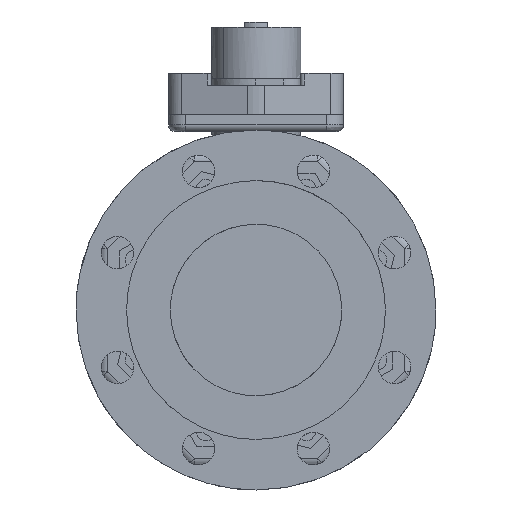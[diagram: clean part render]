
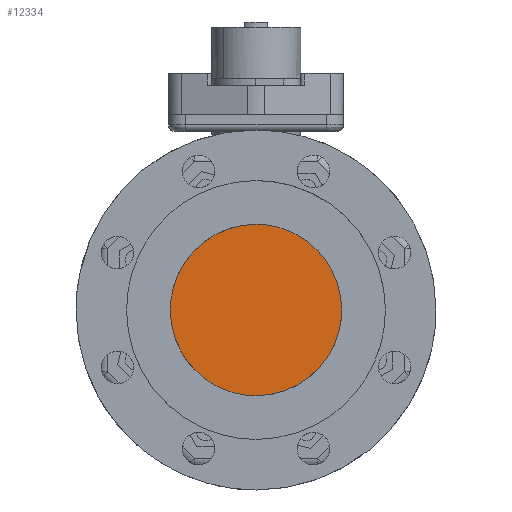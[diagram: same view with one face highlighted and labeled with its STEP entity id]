
A CAD part, left-side view. The second image highlights one B-rep face of the part: STEP entity #12334.
In plain terms, the highlighted free-form (B-spline) face has degree [1, 1] with [2, 2] control points.
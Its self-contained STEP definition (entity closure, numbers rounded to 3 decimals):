
#4020=CARTESIAN_POINT('',(-43.,34.418,36.269));
#4021=VERTEX_POINT('',#4020);
#4027=CARTESIAN_POINT('',(-43.,0.,50.));
#4028=VERTEX_POINT('',#4027);
#4029=CARTESIAN_POINT('',(-43.,0.,50.));
#4030=CARTESIAN_POINT('',(-43.,3.757,50.001));
#4031=CARTESIAN_POINT('',(-43.,9.095,49.396));
#4032=CARTESIAN_POINT('',(-43.,17.291,47.102));
#4033=CARTESIAN_POINT('',(-43.,25.469,43.497));
#4034=CARTESIAN_POINT('',(-43.,31.407,39.128));
#4035=CARTESIAN_POINT('',(-43.,34.418,36.269));
#4036=B_SPLINE_CURVE_WITH_KNOTS('',3,(#4029,#4030,#4031,#4032,#4033,#4034,#4035),.UNSPECIFIED.,.F.,.U.,(4,1,1,1,4),(0.,11.27,16.015,25.505,37.961),.UNSPECIFIED.);
#4037=EDGE_CURVE('',#4028,#4021,#4036,.T.);
#4039=CARTESIAN_POINT('',(-43.,-50.,0.));
#4040=VERTEX_POINT('',#4039);
#4041=CARTESIAN_POINT('',(-43.,-50.,0.));
#4042=CARTESIAN_POINT('',(-43.,-50.,3.068));
#4043=CARTESIAN_POINT('',(-43.,-49.471,8.795));
#4044=CARTESIAN_POINT('',(-43.,-47.224,17.114));
#4045=CARTESIAN_POINT('',(-43.,-43.89,24.393));
#4046=CARTESIAN_POINT('',(-43.,-40.016,30.191));
#4047=CARTESIAN_POINT('',(-43.,-35.736,35.153));
#4048=CARTESIAN_POINT('',(-43.,-30.265,40.111));
#4049=CARTESIAN_POINT('',(-43.,-22.626,44.949));
#4050=CARTESIAN_POINT('',(-43.,-12.271,48.943));
#4051=CARTESIAN_POINT('',(-43.,-4.5,50.002));
#4052=CARTESIAN_POINT('',(-43.,0.,50.));
#4053=B_SPLINE_CURVE_WITH_KNOTS('',3,(#4041,#4042,#4043,#4044,#4045,#4046,#4047,#4048,#4049,#4050,#4051,#4052),.UNSPECIFIED.,.F.,.U.,(4,1,1,1,1,1,1,1,1,4),(0.,9.204,17.181,25.771,33.134,38.043,45.406,55.224,65.041,78.54),.UNSPECIFIED.);
#4054=EDGE_CURVE('',#4040,#4028,#4053,.T.);
#4056=CARTESIAN_POINT('',(-43.,-34.418,-36.269));
#4057=VERTEX_POINT('',#4056);
#4058=CARTESIAN_POINT('',(-43.,-34.418,-36.269));
#4059=CARTESIAN_POINT('',(-43.,-36.871,-33.941));
#4060=CARTESIAN_POINT('',(-43.,-41.164,-28.947));
#4061=CARTESIAN_POINT('',(-43.,-45.649,-20.996));
#4062=CARTESIAN_POINT('',(-43.,-49.065,-11.412));
#4063=CARTESIAN_POINT('',(-43.,-50.002,-4.439));
#4064=CARTESIAN_POINT('',(-43.,-50.,0.));
#4065=B_SPLINE_CURVE_WITH_KNOTS('',3,(#4058,#4059,#4060,#4061,#4062,#4063,#4064),.UNSPECIFIED.,.F.,.U.,(4,1,1,1,4),(0.,10.145,19.656,27.264,40.579),.UNSPECIFIED.);
#4066=EDGE_CURVE('',#4057,#4040,#4065,.T.);
#4112=CARTESIAN_POINT('',(-43.,0.,-50.));
#4113=VERTEX_POINT('',#4112);
#4114=CARTESIAN_POINT('',(-43.,0.,-50.));
#4115=CARTESIAN_POINT('',(-43.,-3.361,-50.));
#4116=CARTESIAN_POINT('',(-43.,-10.677,-49.26));
#4117=CARTESIAN_POINT('',(-43.,-19.559,-46.314));
#4118=CARTESIAN_POINT('',(-43.,-27.735,-41.865));
#4119=CARTESIAN_POINT('',(-43.,-31.98,-38.583));
#4120=CARTESIAN_POINT('',(-43.,-34.418,-36.269));
#4121=B_SPLINE_CURVE_WITH_KNOTS('',3,(#4114,#4115,#4116,#4117,#4118,#4119,#4120),.UNSPECIFIED.,.F.,.U.,(4,1,1,1,4),(0.,10.083,21.946,27.878,37.961),.UNSPECIFIED.);
#4122=EDGE_CURVE('',#4113,#4057,#4121,.T.);
#4124=CARTESIAN_POINT('',(-43.,50.,0.));
#4125=VERTEX_POINT('',#4124);
#4126=CARTESIAN_POINT('',(-43.,50.,0.));
#4127=CARTESIAN_POINT('',(-43.,50.,-20.711));
#4128=CARTESIAN_POINT('',(-43.,35.355,-35.355));
#4129=CARTESIAN_POINT('',(-43.,20.711,-50.));
#4130=CARTESIAN_POINT('',(-43.,0.,-50.));
#4138=(BOUNDED_CURVE()B_SPLINE_CURVE(2,(#4126,#4127,#4128,#4129,#4130),.UNSPECIFIED.,.F.,.U.)B_SPLINE_CURVE_WITH_KNOTS((3,2,3),(0.,0.5,1.),.UNSPECIFIED.)CURVE()GEOMETRIC_REPRESENTATION_ITEM()RATIONAL_B_SPLINE_CURVE((1.,0.924,1.,0.924,1.))REPRESENTATION_ITEM(''));
#4139=EDGE_CURVE('',#4125,#4113,#4138,.T.);
#4141=CARTESIAN_POINT('',(-43.,34.418,36.269));
#4142=CARTESIAN_POINT('',(-43.,36.257,34.523));
#4143=CARTESIAN_POINT('',(-43.,39.813,30.594));
#4144=CARTESIAN_POINT('',(-43.,43.862,24.373));
#4145=CARTESIAN_POINT('',(-43.,46.959,17.639));
#4146=CARTESIAN_POINT('',(-43.,49.336,9.722));
#4147=CARTESIAN_POINT('',(-43.,50.001,3.593));
#4148=CARTESIAN_POINT('',(-43.,50.,0.));
#4149=B_SPLINE_CURVE_WITH_KNOTS('',3,(#4141,#4142,#4143,#4144,#4145,#4146,#4147,#4148),.UNSPECIFIED.,.F.,.U.,(4,1,1,1,1,4),(0.,7.609,15.851,22.192,29.8,40.579),.UNSPECIFIED.);
#4150=EDGE_CURVE('',#4021,#4125,#4149,.T.);
#12321=CARTESIAN_POINT('',(-43.,-54.995,54.995));
#12322=CARTESIAN_POINT('',(-43.,-54.995,-54.995));
#12323=CARTESIAN_POINT('',(-43.,54.995,54.995));
#12324=CARTESIAN_POINT('',(-43.,54.995,-54.995));
#12325=B_SPLINE_SURFACE_WITH_KNOTS('',1,1,((#12321,#12323),(#12322,#12324)),.UNSPECIFIED.,.F.,.F.,.U.,(2,2),(2,2),(0.,109.99),(0.,109.99),.UNSPECIFIED.);
#12326=ORIENTED_EDGE('',*,*,#4122,.T.);
#12327=ORIENTED_EDGE('',*,*,#4066,.T.);
#12328=ORIENTED_EDGE('',*,*,#4054,.T.);
#12329=ORIENTED_EDGE('',*,*,#4037,.T.);
#12330=ORIENTED_EDGE('',*,*,#4150,.T.);
#12331=ORIENTED_EDGE('',*,*,#4139,.T.);
#12332=EDGE_LOOP('',(#12326,#12327,#12328,#12329,#12330,#12331));
#12333=FACE_OUTER_BOUND('',#12332,.T.);
#12334=ADVANCED_FACE('',(#12333),#12325,.F.);
